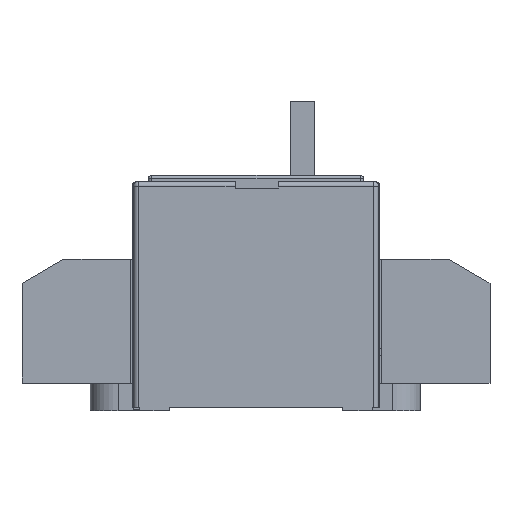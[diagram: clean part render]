
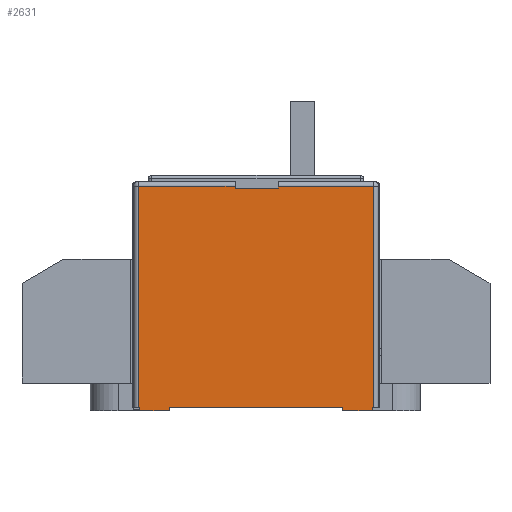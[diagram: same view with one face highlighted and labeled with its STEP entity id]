
A CAD part, left-side view. The second image highlights one B-rep face of the part: STEP entity #2631.
In plain terms, the highlighted planar face has unit normal (-1, 0, 0).
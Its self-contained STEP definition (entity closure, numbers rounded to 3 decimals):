
#787=LINE('',#13342,#1762);
#836=LINE('',#13459,#1811);
#838=LINE('',#13465,#1813);
#917=LINE('',#13814,#1892);
#934=LINE('',#13901,#1909);
#978=LINE('',#13999,#1953);
#983=LINE('',#14011,#1958);
#985=LINE('',#14014,#1960);
#991=LINE('',#14027,#1966);
#1157=LINE('',#14363,#2132);
#1163=LINE('',#14374,#2138);
#1164=LINE('',#14378,#2139);
#1165=LINE('',#14380,#2140);
#1166=LINE('',#14382,#2141);
#1167=LINE('',#14383,#2142);
#1168=LINE('',#14384,#2143);
#1762=VECTOR('',#10792,1.);
#1811=VECTOR('',#10877,1.);
#1813=VECTOR('',#10883,1.);
#1892=VECTOR('',#11200,1.);
#1909=VECTOR('',#11317,1.);
#1953=VECTOR('',#11415,1.);
#1958=VECTOR('',#11422,1.);
#1960=VECTOR('',#11426,1.);
#1966=VECTOR('',#11434,1.);
#2132=VECTOR('',#11732,1.);
#2138=VECTOR('',#11744,1.);
#2139=VECTOR('',#11749,1.);
#2140=VECTOR('',#11750,1.);
#2141=VECTOR('',#11751,1.);
#2142=VECTOR('',#11752,1.);
#2143=VECTOR('',#11753,1.);
#2631=ADVANCED_FACE('',(#3381),#2947,.F.);
#2947=PLANE('',#9455);
#3381=FACE_OUTER_BOUND('',#3893,.T.);
#3893=EDGE_LOOP('',(#5969,#5970,#5971,#5972,#5973,#5974,#5975,#5976,#5977,
#5978,#5979,#5980,#5981,#5982,#5983,#5984));
#5969=ORIENTED_EDGE('',*,*,#8415,.F.);
#5970=ORIENTED_EDGE('',*,*,#8166,.T.);
#5971=ORIENTED_EDGE('',*,*,#7968,.T.);
#5972=ORIENTED_EDGE('',*,*,#7912,.F.);
#5973=ORIENTED_EDGE('',*,*,#7971,.T.);
#5974=ORIENTED_EDGE('',*,*,#8123,.T.);
#5975=ORIENTED_EDGE('',*,*,#8417,.T.);
#5976=ORIENTED_EDGE('',*,*,#8418,.T.);
#5977=ORIENTED_EDGE('',*,*,#8419,.F.);
#5978=ORIENTED_EDGE('',*,*,#8216,.F.);
#5979=ORIENTED_EDGE('',*,*,#8221,.T.);
#5980=ORIENTED_EDGE('',*,*,#8420,.T.);
#5981=ORIENTED_EDGE('',*,*,#8229,.F.);
#5982=ORIENTED_EDGE('',*,*,#8223,.F.);
#5983=ORIENTED_EDGE('',*,*,#8409,.T.);
#5984=ORIENTED_EDGE('',*,*,#8421,.T.);
#6914=VERTEX_POINT('',#13341);
#6915=VERTEX_POINT('',#13343);
#6961=VERTEX_POINT('',#13460);
#6963=VERTEX_POINT('',#13466);
#7070=VERTEX_POINT('',#13809);
#7071=VERTEX_POINT('',#13813);
#7119=VERTEX_POINT('',#14000);
#7120=VERTEX_POINT('',#14001);
#7124=VERTEX_POINT('',#14010);
#7125=VERTEX_POINT('',#14015);
#7126=VERTEX_POINT('',#14016);
#7129=VERTEX_POINT('',#14024);
#7234=VERTEX_POINT('',#14362);
#7237=VERTEX_POINT('',#14375);
#7238=VERTEX_POINT('',#14379);
#7239=VERTEX_POINT('',#14381);
#7912=EDGE_CURVE('',#6914,#6915,#787,.T.);
#7968=EDGE_CURVE('',#6961,#6915,#836,.T.);
#7971=EDGE_CURVE('',#6914,#6963,#838,.T.);
#8123=EDGE_CURVE('',#6963,#7071,#917,.T.);
#8166=EDGE_CURVE('',#7070,#6961,#934,.T.);
#8216=EDGE_CURVE('',#7119,#7120,#978,.T.);
#8221=EDGE_CURVE('',#7119,#7124,#983,.T.);
#8223=EDGE_CURVE('',#7125,#7126,#985,.T.);
#8229=EDGE_CURVE('',#7126,#7129,#991,.T.);
#8409=EDGE_CURVE('',#7125,#7234,#1157,.T.);
#8415=EDGE_CURVE('',#7070,#7237,#1163,.T.);
#8417=EDGE_CURVE('',#7071,#7238,#1164,.T.);
#8418=EDGE_CURVE('',#7238,#7239,#1165,.T.);
#8419=EDGE_CURVE('',#7120,#7239,#1166,.T.);
#8420=EDGE_CURVE('',#7124,#7129,#1167,.T.);
#8421=EDGE_CURVE('',#7234,#7237,#1168,.T.);
#9455=AXIS2_PLACEMENT_3D('',#14385,#11754,#11755);
#10792=DIRECTION('',(0.,-1.,0.));
#10877=DIRECTION('',(0.,0.,-1.));
#10883=DIRECTION('',(0.,0.,1.));
#11200=DIRECTION('',(0.,1.,0.));
#11317=DIRECTION('',(0.,1.,0.));
#11415=DIRECTION('',(0.,1.,0.));
#11422=DIRECTION('',(0.,0.,1.));
#11426=DIRECTION('',(0.,1.,0.));
#11434=DIRECTION('',(0.,0.,1.));
#11732=DIRECTION('',(0.,0.,1.));
#11744=DIRECTION('',(0.,0.,-1.));
#11749=DIRECTION('',(0.,0.,-1.));
#11750=DIRECTION('',(0.,-1.,0.));
#11751=DIRECTION('',(0.,0.,1.));
#11752=DIRECTION('',(0.,-1.,0.));
#11753=DIRECTION('',(0.,-1.,0.));
#11754=DIRECTION('',(1.,0.,0.));
#11755=DIRECTION('',(0.,0.,-1.));
#13341=CARTESIAN_POINT('',(-69.,-17.985,67.));
#13342=CARTESIAN_POINT('',(-69.,12.765,67.));
#13343=CARTESIAN_POINT('',(-69.,-31.985,67.));
#13459=CARTESIAN_POINT('',(-69.,-31.985,69.1));
#13460=CARTESIAN_POINT('',(-69.,-31.985,67.6));
#13465=CARTESIAN_POINT('',(-69.,-17.985,69.1));
#13466=CARTESIAN_POINT('',(-69.,-17.985,67.6));
#13809=CARTESIAN_POINT('',(-69.,-62.735,67.6));
#13813=CARTESIAN_POINT('',(-69.,13.265,67.6));
#13814=CARTESIAN_POINT('',(-69.,13.265,67.6));
#13901=CARTESIAN_POINT('',(-69.,13.265,67.6));
#13999=CARTESIAN_POINT('',(-69.,3.265,-4.9));
#14000=CARTESIAN_POINT('',(-69.,3.265,-4.9));
#14001=CARTESIAN_POINT('',(-69.,12.765,-4.9));
#14010=CARTESIAN_POINT('',(-69.,3.265,-3.9));
#14011=CARTESIAN_POINT('',(-69.,3.265,-5.9));
#14014=CARTESIAN_POINT('',(-69.,-62.235,-4.9));
#14015=CARTESIAN_POINT('',(-69.,-62.235,-4.9));
#14016=CARTESIAN_POINT('',(-69.,-52.735,-4.9));
#14024=CARTESIAN_POINT('',(-69.,-52.735,-3.9));
#14027=CARTESIAN_POINT('',(-69.,-52.735,-5.9));
#14362=CARTESIAN_POINT('',(-69.,-62.235,-3.9));
#14363=CARTESIAN_POINT('',(-69.,-62.235,-5.9));
#14374=CARTESIAN_POINT('',(-69.,-62.735,69.1));
#14375=CARTESIAN_POINT('',(-69.,-62.735,-3.9));
#14378=CARTESIAN_POINT('',(-69.,13.265,69.1));
#14379=CARTESIAN_POINT('',(-69.,13.265,-3.9));
#14380=CARTESIAN_POINT('',(-69.,-62.235,-3.9));
#14381=CARTESIAN_POINT('',(-69.,12.765,-3.9));
#14382=CARTESIAN_POINT('',(-69.,12.765,-5.9));
#14383=CARTESIAN_POINT('',(-69.,-62.235,-3.9));
#14384=CARTESIAN_POINT('',(-69.,-62.235,-3.9));
#14385=CARTESIAN_POINT('',(-69.,-62.235,69.1));
